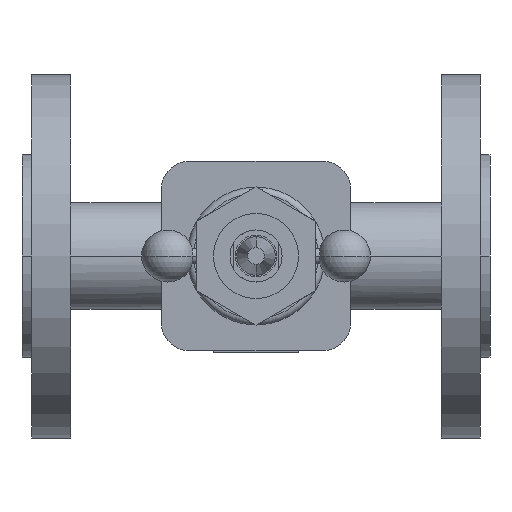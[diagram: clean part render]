
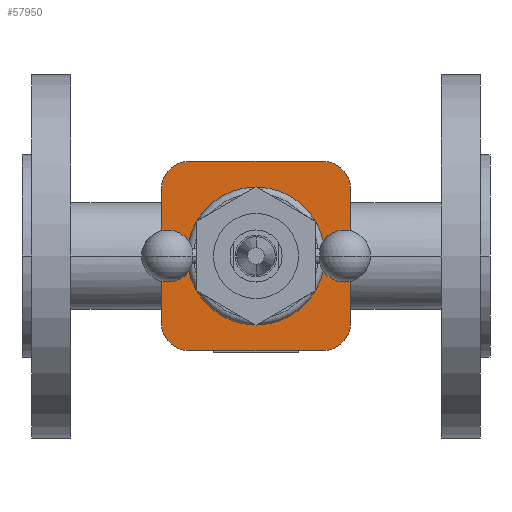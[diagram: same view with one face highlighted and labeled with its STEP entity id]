
A CAD part, front view. The second image highlights one B-rep face of the part: STEP entity #57950.
In plain terms, the highlighted planar face has unit normal (0, -1, 0).
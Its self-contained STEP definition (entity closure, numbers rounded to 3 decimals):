
#16820=CARTESIAN_POINT('',(116.5,-70.5,0.));
#16830=VERTEX_POINT('',#16820);
#16920=CARTESIAN_POINT('',(63.5,-70.5,0.));
#16930=VERTEX_POINT('',#16920);
#16960=CARTESIAN_POINT('',(90.,-70.5,0.));
#16970=DIRECTION('',(0.,-1.,0.));
#16980=DIRECTION('',(-1.,0.,0.));
#16990=AXIS2_PLACEMENT_3D('',#16960,#16970,#16980);
#17000=CIRCLE('',#16990,26.5);
#17010=EDGE_CURVE('',#16830,#16930,#17000,.T.);
#47270=CARTESIAN_POINT('',(64.544,-70.5,-36.456));
#47280=VERTEX_POINT('',#47270);
#47310=CARTESIAN_POINT('',(84.103,-70.5,-36.456));
#47320=DIRECTION('',(1.,0.,0.));
#47330=VECTOR('',#47320,1.);
#47340=LINE('',#47310,#47330);
#47350=CARTESIAN_POINT('',(115.456,-70.5,-36.456));
#47360=VERTEX_POINT('',#47350);
#47370=EDGE_CURVE('',#47280,#47360,#47340,.T.);
#48570=CARTESIAN_POINT('',(115.456,-70.5,36.456));
#48580=VERTEX_POINT('',#48570);
#48610=CARTESIAN_POINT('',(58.647,-70.5,36.456));
#48620=DIRECTION('',(-1.,0.,0.));
#48630=VECTOR('',#48620,1.);
#48640=LINE('',#48610,#48630);
#48650=CARTESIAN_POINT('',(64.544,-70.5,36.456));
#48660=VERTEX_POINT('',#48650);
#48670=EDGE_CURVE('',#48580,#48660,#48640,.T.);
#51490=CARTESIAN_POINT('',(64.544,-70.5,25.456));
#51500=DIRECTION('',(0.,-1.,0.));
#51510=DIRECTION('',(-1.,0.,0.));
#51520=AXIS2_PLACEMENT_3D('',#51490,#51500,#51510);
#51530=CIRCLE('',#51520,11.);
#51540=CARTESIAN_POINT('',(53.544,-70.5,25.456));
#51550=VERTEX_POINT('',#51540);
#51560=EDGE_CURVE('',#48660,#51550,#51530,.T.);
#51810=CARTESIAN_POINT('',(115.456,-70.5,-25.456));
#51820=DIRECTION('',(0.,-1.,0.));
#51830=DIRECTION('',(1.,0.,0.));
#51840=AXIS2_PLACEMENT_3D('',#51810,#51820,#51830);
#51850=CIRCLE('',#51840,11.);
#51860=CARTESIAN_POINT('',(126.456,-70.5,-25.456));
#51870=VERTEX_POINT('',#51860);
#51880=EDGE_CURVE('',#47360,#51870,#51850,.T.);
#57490=CARTESIAN_POINT('',(52.75,-70.5,0.));
#57500=DIRECTION('',(0.,-1.,0.));
#57510=DIRECTION('',(-1.,0.,0.));
#57520=AXIS2_PLACEMENT_3D('',#57490,#57500,#57510);
#57530=PLANE('',#57520);
#57540=ORIENTED_EDGE('',*,*,#51560,.T.);
#57550=ORIENTED_EDGE('',*,*,#48670,.T.);
#57560=CARTESIAN_POINT('',(115.456,-70.5,25.456));
#57570=DIRECTION('',(0.,-1.,0.));
#57580=DIRECTION('',(0.,0.,1.));
#57590=AXIS2_PLACEMENT_3D('',#57560,#57570,#57580);
#57600=CIRCLE('',#57590,11.);
#57610=CARTESIAN_POINT('',(126.456,-70.5,25.456));
#57620=VERTEX_POINT('',#57610);
#57630=EDGE_CURVE('',#57620,#48580,#57600,.T.);
#57640=ORIENTED_EDGE('',*,*,#57630,.T.);
#57650=CARTESIAN_POINT('',(126.456,-70.5,12.728));
#57660=DIRECTION('',(0.,0.,1.));
#57670=VECTOR('',#57660,1.);
#57680=LINE('',#57650,#57670);
#57690=EDGE_CURVE('',#51870,#57620,#57680,.T.);
#57700=ORIENTED_EDGE('',*,*,#57690,.T.);
#57710=ORIENTED_EDGE('',*,*,#51880,.T.);
#57720=ORIENTED_EDGE('',*,*,#47370,.T.);
#57730=CARTESIAN_POINT('',(64.544,-70.5,-25.456));
#57740=DIRECTION('',(0.,-1.,0.));
#57750=DIRECTION('',(0.,0.,-1.));
#57760=AXIS2_PLACEMENT_3D('',#57730,#57740,#57750);
#57770=CIRCLE('',#57760,11.);
#57780=CARTESIAN_POINT('',(53.544,-70.5,-25.456));
#57790=VERTEX_POINT('',#57780);
#57800=EDGE_CURVE('',#57790,#47280,#57770,.T.);
#57810=ORIENTED_EDGE('',*,*,#57800,.T.);
#57820=CARTESIAN_POINT('',(53.544,-70.5,-12.728));
#57830=DIRECTION('',(0.,0.,-1.));
#57840=VECTOR('',#57830,1.);
#57850=LINE('',#57820,#57840);
#57860=EDGE_CURVE('',#51550,#57790,#57850,.T.);
#57870=ORIENTED_EDGE('',*,*,#57860,.T.);
#57880=EDGE_LOOP('',(#57870,#57810,#57720,#57710,#57700,#57640,#57550,
#57540));
#57890=FACE_OUTER_BOUND('',#57880,.T.);
#57900=EDGE_CURVE('',#16930,#16830,#17000,.T.);
#57910=ORIENTED_EDGE('',*,*,#57900,.F.);
#57920=ORIENTED_EDGE('',*,*,#17010,.F.);
#57930=EDGE_LOOP('',(#57920,#57910));
#57940=FACE_BOUND('',#57930,.T.);
#57950=ADVANCED_FACE('',(#57890,#57940),#57530,.T.);
